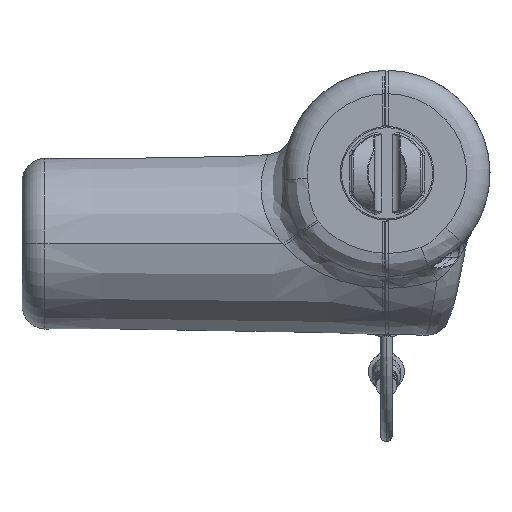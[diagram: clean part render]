
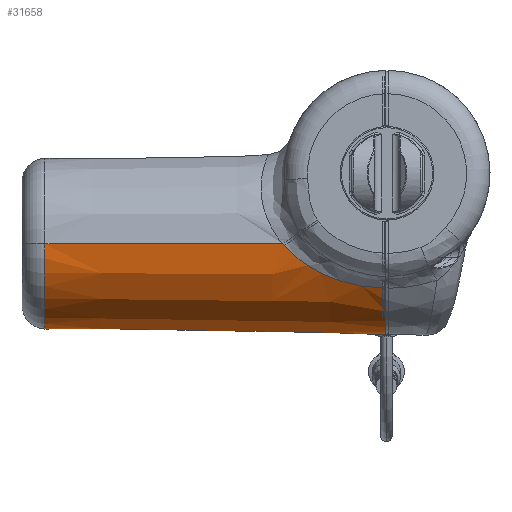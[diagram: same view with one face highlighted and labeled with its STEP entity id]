
A CAD part, front view. The second image highlights one B-rep face of the part: STEP entity #31658.
In plain terms, the highlighted conical face has half-angle 1 degrees and reference radius 37.72 mm.
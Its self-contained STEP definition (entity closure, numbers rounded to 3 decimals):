
#5612=CARTESIAN_POINT('',(-126.,50.,-30.102));
#5613=DIRECTION('',(-1.,0.,0.));
#5614=DIRECTION('',(0.,0.955,-0.296));
#5615=AXIS2_PLACEMENT_3D('',#5612,#5613,#5614);
#5645=CARTESIAN_POINT('',(-36.95,87.484,
-38.23));
#5654=CARTESIAN_POINT('',(-126.,85.148,-41.007));
#5655=CARTESIAN_POINT('',(-116.044,85.343,
-40.963));
#5656=CARTESIAN_POINT('',(-96.139,85.733,
-40.877));
#5657=CARTESIAN_POINT('',(-66.303,86.315,
-40.746));
#5658=CARTESIAN_POINT('',(-46.427,86.701,
-40.66));
#5659=CARTESIAN_POINT('',(-36.492,86.894,
-40.616));
#5661=CARTESIAN_POINT('',(-36.492,86.894,
-40.616));
#5662=CARTESIAN_POINT('',(-36.641,87.116,
-39.827));
#5663=CARTESIAN_POINT('',(-36.794,87.313,
-39.031));
#5664=CARTESIAN_POINT('',(-36.95,87.484,
-38.23));
#5666=CARTESIAN_POINT('',(-36.95,87.484,
-38.23));
#5667=CARTESIAN_POINT('',(-37.235,87.797,
-36.764));
#5668=CARTESIAN_POINT('',(-38.07,87.989,
-35.365));
#5669=CARTESIAN_POINT('',(-39.306,88.088,
-34.261));
#5671=CARTESIAN_POINT('',(-39.306,88.088,
-34.261));
#5672=CARTESIAN_POINT('',(-39.816,88.128,
-33.804));
#5673=CARTESIAN_POINT('',(-40.801,88.195,
-32.888));
#5674=CARTESIAN_POINT('',(-42.171,88.247,
-31.498));
#5675=CARTESIAN_POINT('',(-43.017,88.249,
-30.568));
#5676=CARTESIAN_POINT('',(-43.422,88.242,
-30.102));
#5678=DIRECTION('',(-1.,-0.017,0.));
#5679=VECTOR('',#5678,102.768);
#5680=CARTESIAN_POINT('',(-43.422,88.242,
-30.102));
#5681=LINE('',#5680,#5679);
#5682=DIRECTION('',(1.,-0.017,0.));
#5683=VECTOR('',#5682,101.533);
#5684=CARTESIAN_POINT('',(-146.175,13.551,-30.102));
#5685=LINE('',#5684,#5683);
#5686=CARTESIAN_POINT('',(-0.5,71.155,
-62.856));
#5687=CARTESIAN_POINT('',(-2.304,71.105,
-62.85));
#5688=CARTESIAN_POINT('',(-5.914,71.006,
-62.839));
#5689=CARTESIAN_POINT('',(-11.331,70.857,
-62.822));
#5690=CARTESIAN_POINT('',(-14.945,70.758,
-62.81));
#5691=CARTESIAN_POINT('',(-16.753,70.708,
-62.805));
#5693=CARTESIAN_POINT('',(-35.498,84.893,
-46.087));
#5694=CARTESIAN_POINT('',(-35.669,85.34,
-45.105));
#5695=CARTESIAN_POINT('',(-35.848,85.745,
-44.105));
#5696=CARTESIAN_POINT('',(-36.033,86.106,
-43.09));
#5698=CARTESIAN_POINT('',(-36.033,86.106,
-43.09));
#5699=CARTESIAN_POINT('',(-46.029,85.936,
-43.047));
#5700=CARTESIAN_POINT('',(-66.021,85.597,
-42.959));
#5701=CARTESIAN_POINT('',(-96.01,85.088,
-42.829));
#5702=CARTESIAN_POINT('',(-116.003,84.748,
-42.741));
#5703=CARTESIAN_POINT('',(-126.,84.578,-42.698));
#5713=CARTESIAN_POINT('',(-39.306,88.088,
-34.261));
#5863=CARTESIAN_POINT('',(-44.657,11.779,
-30.102));
#8267=CARTESIAN_POINT('',(-0.5,50.,-30.102));
#8268=DIRECTION('',(-1.,0.,0.));
#8269=DIRECTION('',(0.,0.543,-0.84));
#8270=AXIS2_PLACEMENT_3D('',#8267,#8268,#8269);
#8413=CARTESIAN_POINT('',(-27.753,76.997,
-57.572));
#8414=CARTESIAN_POINT('',(-26.783,76.356,
-58.227));
#8415=CARTESIAN_POINT('',(-24.674,75.031,
-59.488));
#8416=CARTESIAN_POINT('',(-20.998,72.955,
-61.216));
#8417=CARTESIAN_POINT('',(-18.223,71.471,
-62.292));
#8418=CARTESIAN_POINT('',(-16.753,70.708,
-62.805));
#8420=CARTESIAN_POINT('',(-35.498,84.893,
-46.087));
#8421=CARTESIAN_POINT('',(-35.255,84.334,
-47.319));
#8422=CARTESIAN_POINT('',(-34.58,83.131,
-49.619));
#8423=CARTESIAN_POINT('',(-33.004,81.313,
-52.455));
#8424=CARTESIAN_POINT('',(-30.846,79.247,
-55.157));
#8425=CARTESIAN_POINT('',(-28.866,77.764,
-56.791));
#8426=CARTESIAN_POINT('',(-27.753,76.997,
-57.572));
#11420=CARTESIAN_POINT('',(-0.5,15.961,
-49.119));
#11421=CARTESIAN_POINT('',(-3.687,15.982,
-49.044));
#11422=CARTESIAN_POINT('',(-9.727,15.843,
-48.588));
#11423=CARTESIAN_POINT('',(-17.869,15.069,
-46.784));
#11424=CARTESIAN_POINT('',(-24.837,14.124,
-44.361));
#11425=CARTESIAN_POINT('',(-31.123,13.154,
-41.271));
#11426=CARTESIAN_POINT('',(-35.623,12.49,
-38.377));
#11427=CARTESIAN_POINT('',(-39.554,12.002,
-35.392));
#11428=CARTESIAN_POINT('',(-42.435,11.787,
-32.551));
#11429=CARTESIAN_POINT('',(-43.887,11.776,
-30.987));
#11448=CARTESIAN_POINT('',(-43.887,11.776,
-30.987));
#11449=CARTESIAN_POINT('',(-43.975,11.776,
-30.889));
#11450=CARTESIAN_POINT('',(-44.148,11.775,
-30.693));
#11451=CARTESIAN_POINT('',(-44.405,11.776,
-30.398));
#11452=CARTESIAN_POINT('',(-44.573,11.778,
-30.201));
#11453=CARTESIAN_POINT('',(-44.657,11.779,
-30.102));
#12541=CARTESIAN_POINT('',(-146.175,50.,-30.102));
#12542=DIRECTION('',(1.,0.,0.));
#12543=DIRECTION('',(0.,-1.,0.));
#12544=AXIS2_PLACEMENT_3D('',#12541,#12542,#12543);
#19307=VERTEX_POINT('',#5645);
#19339=CARTESIAN_POINT('',(-126.,85.148,-41.007));
#19341=VERTEX_POINT('',#19339);
#19344=CARTESIAN_POINT('',(-126.,84.578,-42.698));
#19346=VERTEX_POINT('',#19344);
#19357=VERTEX_POINT('',#5863);
#19358=CARTESIAN_POINT('',(-146.175,86.449,-30.102));
#19359=CARTESIAN_POINT('',(-146.175,13.551,-30.102));
#19360=VERTEX_POINT('',#19358);
#19361=VERTEX_POINT('',#19359);
#19362=CARTESIAN_POINT('',(-43.422,88.242,
-30.102));
#19363=VERTEX_POINT('',#19362);
#19372=VERTEX_POINT('',#5713);
#19373=VERTEX_POINT('',#5659);
#19374=VERTEX_POINT('',#11448);
#19375=VERTEX_POINT('',#11420);
#19376=CARTESIAN_POINT('',(-0.5,71.155,-62.856));
#19377=VERTEX_POINT('',#19376);
#19378=VERTEX_POINT('',#5691);
#19379=VERTEX_POINT('',#8413);
#19380=VERTEX_POINT('',#8420);
#19381=VERTEX_POINT('',#5696);
#31622=CARTESIAN_POINT('',(-73.337,50.,-30.102));
#31623=DIRECTION('',(1.,0.,0.));
#31624=DIRECTION('',(0.,-1.,0.));
#31625=AXIS2_PLACEMENT_3D('',#31622,#31623,#31624);
#31626=CONICAL_SURFACE('',#31625,37.72,1.);
#31627=ORIENTED_EDGE('',*,*,#31559,.F.);
#31629=ORIENTED_EDGE('',*,*,#31628,.T.);
#31630=ORIENTED_EDGE('',*,*,#31615,.T.);
#31631=ORIENTED_EDGE('',*,*,#31489,.T.);
#31633=ORIENTED_EDGE('',*,*,#31632,.T.);
#31635=ORIENTED_EDGE('',*,*,#31634,.T.);
#31637=ORIENTED_EDGE('',*,*,#31636,.F.);
#31639=ORIENTED_EDGE('',*,*,#31638,.T.);
#31641=ORIENTED_EDGE('',*,*,#31640,.F.);
#31643=ORIENTED_EDGE('',*,*,#31642,.F.);
#31645=ORIENTED_EDGE('',*,*,#31644,.F.);
#31647=ORIENTED_EDGE('',*,*,#31646,.T.);
#31649=ORIENTED_EDGE('',*,*,#31648,.F.);
#31651=ORIENTED_EDGE('',*,*,#31650,.F.);
#31653=ORIENTED_EDGE('',*,*,#31652,.T.);
#31655=ORIENTED_EDGE('',*,*,#31654,.T.);
#31656=EDGE_LOOP('',(#31627,#31629,#31630,#31631,#31633,#31635,#31637,#31639,
#31641,#31643,#31645,#31647,#31649,#31651,#31653,#31655));
#31657=FACE_OUTER_BOUND('',#31656,.F.);
#31658=ADVANCED_FACE('',(#31657),#31626,.T.);
#5616=CIRCLE('',#5615,36.801);
#5660=B_SPLINE_CURVE_WITH_KNOTS('',3,(#5654,#5655,#5656,#5657,#5658,#5659),
.UNSPECIFIED.,.F.,.F.,(4,1,1,4),(0.,0.333,0.667,1.),
.UNSPECIFIED.);
#5665=B_SPLINE_CURVE_WITH_KNOTS('',3,(#5661,#5662,#5663,#5664),.UNSPECIFIED.,
.F.,.F.,(4,4),(0.,1.),.UNSPECIFIED.);
#5670=B_SPLINE_CURVE_WITH_KNOTS('',3,(#5666,#5667,#5668,#5669),.UNSPECIFIED.,
.F.,.F.,(4,4),(0.,1.),.UNSPECIFIED.);
#5677=B_SPLINE_CURVE_WITH_KNOTS('',3,(#5671,#5672,#5673,#5674,#5675,#5676),
.UNSPECIFIED.,.F.,.F.,(4,1,1,4),(0.,0.333,0.667,1.),
.UNSPECIFIED.);
#5692=B_SPLINE_CURVE_WITH_KNOTS('',3,(#5686,#5687,#5688,#5689,#5690,#5691),
.UNSPECIFIED.,.F.,.F.,(4,1,1,4),(0.,0.333,0.667,1.),
.UNSPECIFIED.);
#5697=B_SPLINE_CURVE_WITH_KNOTS('',3,(#5693,#5694,#5695,#5696),.UNSPECIFIED.,
.F.,.F.,(4,4),(0.,1.),.UNSPECIFIED.);
#5704=B_SPLINE_CURVE_WITH_KNOTS('',3,(#5698,#5699,#5700,#5701,#5702,#5703),
.UNSPECIFIED.,.F.,.F.,(4,1,1,4),(0.,0.333,0.667,1.),
.UNSPECIFIED.);
#8271=CIRCLE('',#8270,38.991);
#8419=B_SPLINE_CURVE_WITH_KNOTS('',3,(#8413,#8414,#8415,#8416,#8417,#8418),
.UNSPECIFIED.,.F.,.F.,(4,1,1,4),(0.,0.333,0.667,1.),
.UNSPECIFIED.);
#8427=B_SPLINE_CURVE_WITH_KNOTS('',3,(#8420,#8421,#8422,#8423,#8424,#8425,
#8426),.UNSPECIFIED.,.F.,.F.,(4,1,1,1,4),(0.,0.25,0.5,0.75,1.),
.UNSPECIFIED.);
#11430=B_SPLINE_CURVE_WITH_KNOTS('',3,(#11420,#11421,#11422,#11423,#11424,
#11425,#11426,#11427,#11428,#11429),.UNSPECIFIED.,.F.,.F.,(4,1,1,1,1,1,1,4),(
0.,0.143,0.286,0.429,0.571,
0.714,0.857,1.),.UNSPECIFIED.);
#11454=B_SPLINE_CURVE_WITH_KNOTS('',3,(#11448,#11449,#11450,#11451,#11452,
#11453),.UNSPECIFIED.,.F.,.F.,(4,1,1,4),(0.,0.333,
0.667,1.),.UNSPECIFIED.);
#12545=CIRCLE('',#12544,36.449);
#31489=EDGE_CURVE('',#19307,#19372,#5670,.T.);
#31559=EDGE_CURVE('',#19341,#19346,#5616,.T.);
#31615=EDGE_CURVE('',#19373,#19307,#5665,.T.);
#31628=EDGE_CURVE('',#19341,#19373,#5660,.T.);
#31632=EDGE_CURVE('',#19372,#19363,#5677,.T.);
#31634=EDGE_CURVE('',#19363,#19360,#5681,.T.);
#31636=EDGE_CURVE('',#19361,#19360,#12545,.T.);
#31638=EDGE_CURVE('',#19361,#19357,#5685,.T.);
#31640=EDGE_CURVE('',#19374,#19357,#11454,.T.);
#31642=EDGE_CURVE('',#19375,#19374,#11430,.T.);
#31644=EDGE_CURVE('',#19377,#19375,#8271,.T.);
#31646=EDGE_CURVE('',#19377,#19378,#5692,.T.);
#31648=EDGE_CURVE('',#19379,#19378,#8419,.T.);
#31650=EDGE_CURVE('',#19380,#19379,#8427,.T.);
#31652=EDGE_CURVE('',#19380,#19381,#5697,.T.);
#31654=EDGE_CURVE('',#19381,#19346,#5704,.T.);
